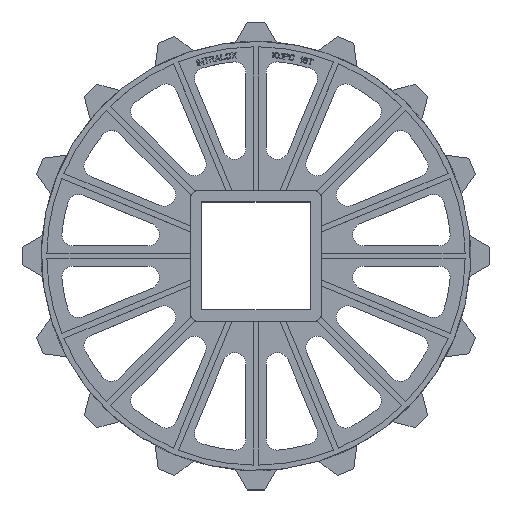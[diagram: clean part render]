
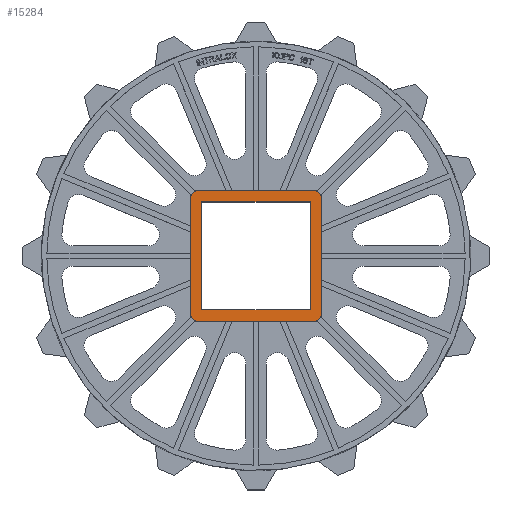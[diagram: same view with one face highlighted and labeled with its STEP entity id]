
A CAD part, top view. The second image highlights one B-rep face of the part: STEP entity #15284.
In plain terms, the highlighted planar face has unit normal (0, 0, 1).
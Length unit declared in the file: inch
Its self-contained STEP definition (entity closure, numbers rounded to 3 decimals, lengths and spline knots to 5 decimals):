
#4355=CARTESIAN_POINT('',(-1.275,-1.275,0.745));
#4356=DIRECTION('',(0.,0.,1.));
#4357=DIRECTION('',(-1.,0.,0.));
#4358=AXIS2_PLACEMENT_3D('',#4355,#4356,#4357);
#4360=DIRECTION('',(0.,-1.,0.));
#4361=VECTOR('',#4360,2.55);
#4362=CARTESIAN_POINT('',(-1.425,1.275,0.745));
#4363=LINE('',#4362,#4361);
#4364=CARTESIAN_POINT('',(-1.275,1.275,0.745));
#4365=DIRECTION('',(0.,0.,1.));
#4366=DIRECTION('',(0.,1.,0.));
#4367=AXIS2_PLACEMENT_3D('',#4364,#4365,#4366);
#4369=DIRECTION('',(-1.,0.,0.));
#4370=VECTOR('',#4369,2.55);
#4371=CARTESIAN_POINT('',(1.275,1.425,0.745));
#4372=LINE('',#4371,#4370);
#4373=CARTESIAN_POINT('',(1.275,1.275,0.745));
#4374=DIRECTION('',(0.,0.,1.));
#4375=DIRECTION('',(1.,0.,0.));
#4376=AXIS2_PLACEMENT_3D('',#4373,#4374,#4375);
#4378=DIRECTION('',(0.,1.,0.));
#4379=VECTOR('',#4378,2.55);
#4380=CARTESIAN_POINT('',(1.425,-1.275,0.745));
#4381=LINE('',#4380,#4379);
#4382=CARTESIAN_POINT('',(1.275,-1.275,0.745));
#4383=DIRECTION('',(0.,0.,1.));
#4384=DIRECTION('',(0.,-1.,0.));
#4385=AXIS2_PLACEMENT_3D('',#4382,#4383,#4384);
#4387=DIRECTION('',(1.,0.,0.));
#4388=VECTOR('',#4387,2.55);
#4389=CARTESIAN_POINT('',(-1.275,-1.425,0.745));
#4390=LINE('',#4389,#4388);
#4391=DIRECTION('',(0.,-1.,0.));
#4392=VECTOR('',#4391,2.362);
#4393=CARTESIAN_POINT('',(-1.181,1.181,0.745));
#4394=LINE('',#4393,#4392);
#4395=DIRECTION('',(1.,0.,0.));
#4396=VECTOR('',#4395,2.362);
#4397=CARTESIAN_POINT('',(-1.181,-1.181,0.745));
#4398=LINE('',#4397,#4396);
#4399=DIRECTION('',(0.,1.,0.));
#4400=VECTOR('',#4399,2.362);
#4401=CARTESIAN_POINT('',(1.181,-1.181,0.745));
#4402=LINE('',#4401,#4400);
#4403=DIRECTION('',(-1.,0.,0.));
#4404=VECTOR('',#4403,2.362);
#4405=CARTESIAN_POINT('',(1.181,1.181,0.745));
#4406=LINE('',#4405,#4404);
#8059=CARTESIAN_POINT('',(-1.181,1.181,0.745));
#8060=CARTESIAN_POINT('',(-1.181,-1.181,0.745));
#8061=VERTEX_POINT('',#8059);
#8062=VERTEX_POINT('',#8060);
#8063=CARTESIAN_POINT('',(1.181,-1.181,0.745));
#8064=VERTEX_POINT('',#8063);
#8065=CARTESIAN_POINT('',(1.181,1.181,0.745));
#8066=VERTEX_POINT('',#8065);
#8095=CARTESIAN_POINT('',(-1.425,-1.275,0.745));
#8096=VERTEX_POINT('',#8095);
#8097=CARTESIAN_POINT('',(-1.275,-1.425,0.745));
#8098=VERTEX_POINT('',#8097);
#8107=CARTESIAN_POINT('',(1.275,-1.425,0.745));
#8109=VERTEX_POINT('',#8107);
#8111=CARTESIAN_POINT('',(1.425,-1.275,0.745));
#8112=VERTEX_POINT('',#8111);
#8119=CARTESIAN_POINT('',(1.425,1.275,0.745));
#8121=VERTEX_POINT('',#8119);
#8123=CARTESIAN_POINT('',(1.275,1.425,0.745));
#8124=VERTEX_POINT('',#8123);
#8135=CARTESIAN_POINT('',(-1.275,1.425,0.745));
#8137=VERTEX_POINT('',#8135);
#8139=CARTESIAN_POINT('',(-1.425,1.275,0.745));
#8140=VERTEX_POINT('',#8139);
#15255=CARTESIAN_POINT('',(0.,0.,0.745));
#15256=DIRECTION('',(0.,0.,1.));
#15257=DIRECTION('',(1.,0.,0.));
#15258=AXIS2_PLACEMENT_3D('',#15255,#15256,#15257);
#15259=PLANE('',#15258);
#15260=ORIENTED_EDGE('',*,*,#11836,.F.);
#15261=ORIENTED_EDGE('',*,*,#11905,.F.);
#15263=ORIENTED_EDGE('',*,*,#15262,.F.);
#15265=ORIENTED_EDGE('',*,*,#15264,.F.);
#15267=ORIENTED_EDGE('',*,*,#15266,.F.);
#15269=ORIENTED_EDGE('',*,*,#15268,.F.);
#15270=ORIENTED_EDGE('',*,*,#15245,.F.);
#15271=ORIENTED_EDGE('',*,*,#11752,.F.);
#15272=EDGE_LOOP('',(#15260,#15261,#15263,#15265,#15267,#15269,#15270,#15271));
#15273=FACE_OUTER_BOUND('',#15272,.F.);
#15275=ORIENTED_EDGE('',*,*,#15274,.T.);
#15277=ORIENTED_EDGE('',*,*,#15276,.T.);
#15279=ORIENTED_EDGE('',*,*,#15278,.T.);
#15281=ORIENTED_EDGE('',*,*,#15280,.T.);
#15282=EDGE_LOOP('',(#15275,#15277,#15279,#15281));
#15283=FACE_BOUND('',#15282,.F.);
#15284=ADVANCED_FACE('',(#15273,#15283),#15259,.T.);
#4359=CIRCLE('',#4358,0.15);
#4368=CIRCLE('',#4367,0.15);
#4377=CIRCLE('',#4376,0.15);
#4386=CIRCLE('',#4385,0.15);
#11752=EDGE_CURVE('',#8098,#8109,#4390,.T.);
#11836=EDGE_CURVE('',#8096,#8098,#4359,.T.);
#11905=EDGE_CURVE('',#8140,#8096,#4363,.T.);
#15245=EDGE_CURVE('',#8109,#8112,#4386,.T.);
#15262=EDGE_CURVE('',#8137,#8140,#4368,.T.);
#15264=EDGE_CURVE('',#8124,#8137,#4372,.T.);
#15266=EDGE_CURVE('',#8121,#8124,#4377,.T.);
#15268=EDGE_CURVE('',#8112,#8121,#4381,.T.);
#15274=EDGE_CURVE('',#8061,#8062,#4394,.T.);
#15276=EDGE_CURVE('',#8062,#8064,#4398,.T.);
#15278=EDGE_CURVE('',#8064,#8066,#4402,.T.);
#15280=EDGE_CURVE('',#8066,#8061,#4406,.T.);
